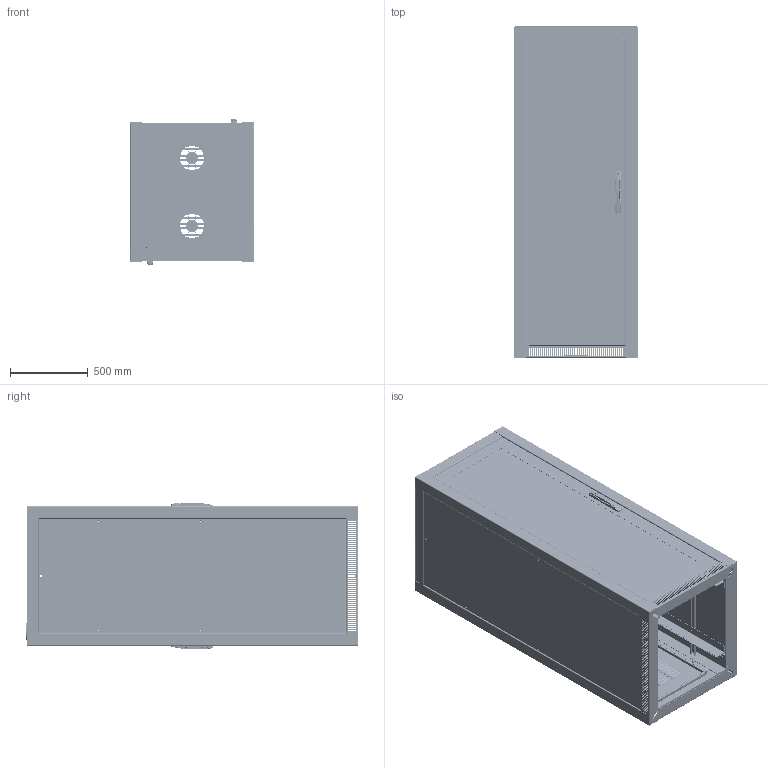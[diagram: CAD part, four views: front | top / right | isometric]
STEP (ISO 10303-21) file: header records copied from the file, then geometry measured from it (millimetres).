
FILE_DESCRIPTION (( 'STEP AP203' ), '1' );
FILE_NAME ('enc2189s.STEP', '2013-09-18T14:18:16', ( 'User' ), ( 'Pentair Inc' ), 'SwSTEP 2.0', 'SolidWorks 2010', '' );
FILE_SCHEMA (( 'CONFIG_CONTROL_DESIGN' ));
Products named in the file (73): enc2189s; 87566425; 87566441; 87566066; 87566439; 87566443; 89082686; 87566447; 87798911; 87789321; 87789322; 87566433; 87566435; 87566437; 87553317; 87566427; 87566429; 87566431; 87931362_87931362; 99401225; 87920638_87920638; 87566080; 87920449_87920449; 60100041_60100041; 87931527_87931527; 87931368_SLEEVE; 23196001_Standard; 87795250; 20127259_20127259; 89091664_875472289; 89101845; 60127141_60127141; 60127383_60127383; 87562939_87562939; 60127430; 11458037; 11458036; 51140001; 11358764; 11258013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
Assembly tree (175 placements, depth 5):
  enc2189s
    87798911  x2
      87789321
      87789322
    87566427
      87558461  x6
      87576034_87576034  x4
      22318005  x2
      87800103_87800103
      89090813  x2
      87800105_87800105  x3
      87798085_87798085
        64201001
        11258598_11258598
        87541995
        87541994_Installed Height
        87927840_87927840
        64210001
        23195001_23195001
      23196001_Standard  x2
      87562939_87562939  x6
      60127430
        46139001_46139001  x2
        11258014
        51138001_Compressed
        51145001_Extended
        60127093
        11458036
        51137001
        51140001
        60127208
        11358764
        11458037
        11258013
        11358765
        60127212
        11258012
        46120001_Compressed
        60127207
        11358763
        51231001
        51223001
      87795251
      87923829
      87792979  x4
      20127259_20127259
        89091664_875472289  x4
        89101845  x4
        60127141_60127141  x2
        60127383_60127383  x2
      87795250
      87566429
        87931362_87931362  x2
        87566080
        99401225  x2
        87920449_87920449  x2
        87920638_87920638  x6
        60100041_60100041  x2
          87931527_87931527
          87931368_SLEEVE
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Bounding box: 801.98 x 2140.84 x 947.47 mm (x, y, z)
Volume: 26032891.4 mm3; surface area: 24515458.9 mm2
Topology: 211 solids, 221 shells, 19062 faces, 48894 edges, 30854 vertices
Faces by surface type: cylinder 7516, plane 7226, torus 2588, bspline 1068, cone 614, sphere 50
Entity records: 279936 total; most frequent: CARTESIAN_POINT 76335, DIRECTION 41399, ORIENTED_EDGE 39840, EDGE_CURVE 19926, AXIS2_PLACEMENT_3D 15905, VERTEX_POINT 12691, LINE 9589, VECTOR 9589
